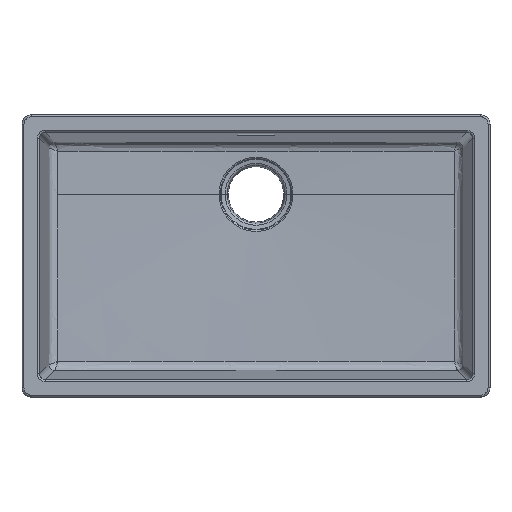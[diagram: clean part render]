
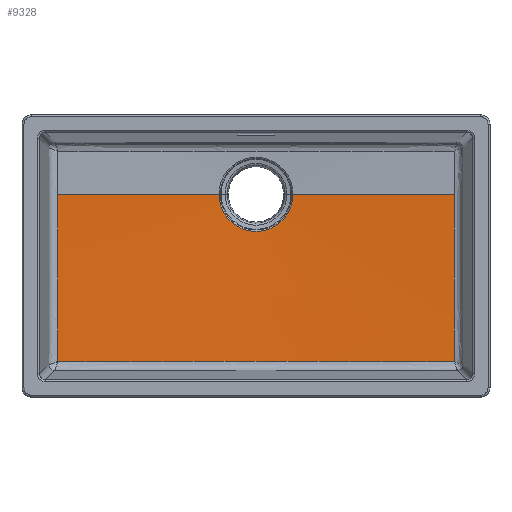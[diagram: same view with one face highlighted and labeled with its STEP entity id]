
A CAD part, top view. The second image highlights one B-rep face of the part: STEP entity #9328.
In plain terms, the highlighted conical face has half-angle 88.2 degrees and reference radius 50 mm.
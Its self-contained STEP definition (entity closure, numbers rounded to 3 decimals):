
#34 = CARTESIAN_POINT ( 'NONE',  ( -186.894, -170.147, -185.275 ) ) ;
#79 = CARTESIAN_POINT ( 'NONE',  ( 320.317, -125.278, -183.313 ) ) ;
#92 = CARTESIAN_POINT ( 'NONE',  ( -213.591, -170.173, -184.768 ) ) ;
#108 = B_SPLINE_CURVE_WITH_KNOTS ( 'NONE', 3,
 ( #9071, #16321, #1503, #92, #34, #6082, #210, #13377, #4696, #16442, #13503, #14878, #3121, #12089, #10550, #16387, #17801, #3000 ),
 .UNSPECIFIED., .F., .F.,
 ( 4, 2, 2, 2, 2, 2, 2, 2, 4 ),
 ( 0., 0.08, 0.16, 0.24, 0.32, 0.401, 0.481, 0.561, 0.641 ),
 .UNSPECIFIED. ) ;
#210 = CARTESIAN_POINT ( 'NONE',  ( -106.801, -170.094, -186.481 ) ) ;
#427 = CARTESIAN_POINT ( 'NONE',  ( -59.879, 99.94, -193.69 ) ) ;
#633 = CARTESIAN_POINT ( 'NONE',  ( -320.226, 9.849, -185.14 ) ) ;
#769 = CARTESIAN_POINT ( 'NONE',  ( -320.275, -80.238, -184.097 ) ) ;
#797 = CARTESIAN_POINT ( 'NONE',  ( 0., 99.94, -194. ) ) ;
#925 = DIRECTION ( 'NONE',  ( 1., 0., 0. ) ) ;
#1343 = VERTEX_POINT ( 'NONE', #12627 ) ;
#1503 = CARTESIAN_POINT ( 'NONE',  ( -266.982, -170.236, -183.651 ) ) ;
#1698 = CARTESIAN_POINT ( 'NONE',  ( 320.372, -170.315, -182.399 ) ) ;
#2037 = VECTOR ( 'NONE', #3929, 1000. ) ;
#2334 = EDGE_CURVE ( 'NONE', #1343, #7682, #14981, .T. ) ;
#3000 = CARTESIAN_POINT ( 'NONE',  ( 320.372, -170.315, -182.399 ) ) ;
#3121 = CARTESIAN_POINT ( 'NONE',  ( 133.505, -170.107, -186.132 ) ) ;
#3421 = CARTESIAN_POINT ( 'NONE',  ( 320.226, 9.849, -185.14 ) ) ;
#3491 = CARTESIAN_POINT ( 'NONE',  ( 320.236, -12.674, -184.923 ) ) ;
#3829 = EDGE_CURVE ( 'NONE', #6646, #14015, #7827, .T. ) ;
#3929 = DIRECTION ( 'NONE',  ( 1., 0., 0.031 ) ) ;
#4696 = CARTESIAN_POINT ( 'NONE',  ( -26.7, -170.072, -187.086 ) ) ;
#4900 = CARTESIAN_POINT ( 'NONE',  ( -320.372, -170.315, -182.399 ) ) ;
#4972 = CARTESIAN_POINT ( 'NONE',  ( 320.211, 99.94, -185.508 ) ) ;
#6010 = CARTESIAN_POINT ( 'NONE',  ( 320.372, -170.315, -182.399 ) ) ;
#6082 = CARTESIAN_POINT ( 'NONE',  ( -133.499, -170.107, -186.132 ) ) ;
#6092 = DIRECTION ( 'NONE',  ( 1., 0., 0. ) ) ;
#6309 = CARTESIAN_POINT ( 'NONE',  ( 320.214, 54.894, -185.433 ) ) ;
#6618 = CARTESIAN_POINT ( 'NONE',  ( -320.372, -170.315, -182.399 ) ) ;
#6646 = VERTEX_POINT ( 'NONE', #427 ) ;
#7682 = VERTEX_POINT ( 'NONE', #4972 ) ;
#7827 = LINE ( 'NONE', #18222, #9409 ) ;
#7996 = CARTESIAN_POINT ( 'NONE',  ( 50., 99.94, -194. ) ) ;
#8216 = CARTESIAN_POINT ( 'NONE',  ( -320.214, 54.894, -185.433 ) ) ;
#8404 = VERTEX_POINT ( 'NONE', #4900 ) ;
#8493 = ORIENTED_EDGE ( 'NONE', *, *, #3829, .T. ) ;
#8550 = ORIENTED_EDGE ( 'NONE', *, *, #15847, .T. ) ;
#9071 = CARTESIAN_POINT ( 'NONE',  ( -320.372, -170.315, -182.399 ) ) ;
#9328 = ADVANCED_FACE ( 'NONE', ( #11035 ), #11957, .F. ) ;
#9409 = VECTOR ( 'NONE', #15109, 1000. ) ;
#10321 = CARTESIAN_POINT ( 'NONE',  ( 0., 99.94, -193.69 ) ) ;
#10550 = CARTESIAN_POINT ( 'NONE',  ( 213.594, -170.173, -184.768 ) ) ;
#10725 = CARTESIAN_POINT ( 'NONE',  ( 320.211, 77.417, -185.508 ) ) ;
#10765 = EDGE_CURVE ( 'NONE', #12959, #7682, #17427, .T. ) ;
#11035 = FACE_OUTER_BOUND ( 'NONE', #18170, .T. ) ;
#11242 = CARTESIAN_POINT ( 'NONE',  ( -320.211, 77.417, -185.508 ) ) ;
#11411 = DIRECTION ( 'NONE',  ( 0., 0., 1. ) ) ;
#11467 = CIRCLE ( 'NONE', #16427, 59.879 ) ;
#11957 = CONICAL_SURFACE ( 'NONE', #18883, 50., 1.539 ) ;
#12089 = CARTESIAN_POINT ( 'NONE',  ( 186.899, -170.147, -185.275 ) ) ;
#12142 = CARTESIAN_POINT ( 'NONE',  ( 320.275, -80.238, -184.097 ) ) ;
#12204 = CARTESIAN_POINT ( 'NONE',  ( 320.211, 99.94, -185.508 ) ) ;
#12342 = EDGE_CURVE ( 'NONE', #6646, #1343, #11467, .T. ) ;
#12358 = CARTESIAN_POINT ( 'NONE',  ( -320.211, 99.94, -185.508 ) ) ;
#12454 = CARTESIAN_POINT ( 'NONE',  ( -320.317, -125.278, -183.313 ) ) ;
#12521 = CARTESIAN_POINT ( 'NONE',  ( -320.211, 99.94, -185.508 ) ) ;
#12627 = CARTESIAN_POINT ( 'NONE',  ( 59.879, 99.94, -193.69 ) ) ;
#12959 = VERTEX_POINT ( 'NONE', #1698 ) ;
#13076 = ORIENTED_EDGE ( 'NONE', *, *, #16585, .T. ) ;
#13283 = ORIENTED_EDGE ( 'NONE', *, *, #10765, .T. ) ;
#13377 = CARTESIAN_POINT ( 'NONE',  ( -53.401, -170.076, -186.959 ) ) ;
#13503 = CARTESIAN_POINT ( 'NONE',  ( 53.408, -170.076, -186.959 ) ) ;
#13582 = B_SPLINE_CURVE_WITH_KNOTS ( 'NONE', 3,
 ( #12521, #11242, #8216, #633, #18551, #769, #12454, #6618 ),
 .UNSPECIFIED., .F., .F.,
 ( 4, 2, 2, 4 ),
 ( 0.07, 0.137, 0.205, 0.34 ),
 .UNSPECIFIED. ) ;
#14015 = VERTEX_POINT ( 'NONE', #12358 ) ;
#14878 = CARTESIAN_POINT ( 'NONE',  ( 106.807, -170.094, -186.481 ) ) ;
#14981 = LINE ( 'NONE', #7996, #2037 ) ;
#15109 = DIRECTION ( 'NONE',  ( -1., 0., 0.031 ) ) ;
#15430 = ORIENTED_EDGE ( 'NONE', *, *, #2334, .F. ) ;
#15847 = EDGE_CURVE ( 'NONE', #14015, #8404, #13582, .T. ) ;
#16321 = CARTESIAN_POINT ( 'NONE',  ( -293.678, -170.274, -183.041 ) ) ;
#16334 = DIRECTION ( 'NONE',  ( 0., 0., 1. ) ) ;
#16387 = CARTESIAN_POINT ( 'NONE',  ( 266.984, -170.236, -183.651 ) ) ;
#16427 = AXIS2_PLACEMENT_3D ( 'NONE', #10321, #16334, #6092 ) ;
#16442 = CARTESIAN_POINT ( 'NONE',  ( 26.707, -170.072, -187.086 ) ) ;
#16585 = EDGE_CURVE ( 'NONE', #8404, #12959, #108, .T. ) ;
#16659 = ORIENTED_EDGE ( 'NONE', *, *, #12342, .F. ) ;
#17427 = B_SPLINE_CURVE_WITH_KNOTS ( 'NONE', 3,
 ( #6010, #79, #12142, #3491, #3421, #6309, #10725, #12204 ),
 .UNSPECIFIED., .F., .F.,
 ( 4, 2, 2, 4 ),
 ( 0., 0.135, 0.203, 0.27 ),
 .UNSPECIFIED. ) ;
#17801 = CARTESIAN_POINT ( 'NONE',  ( 293.678, -170.274, -183.041 ) ) ;
#18170 = EDGE_LOOP ( 'NONE', ( #16659, #8493, #8550, #13076, #13283, #15430 ) ) ;
#18222 = CARTESIAN_POINT ( 'NONE',  ( -50., 99.94, -194. ) ) ;
#18551 = CARTESIAN_POINT ( 'NONE',  ( -320.236, -12.674, -184.923 ) ) ;
#18883 = AXIS2_PLACEMENT_3D ( 'NONE', #797, #11411, #925 ) ;
